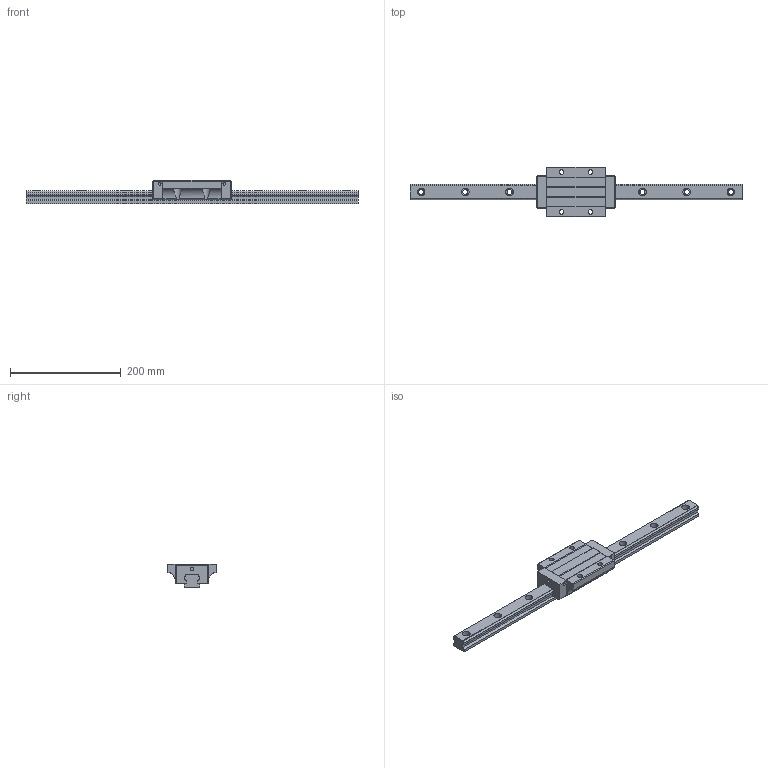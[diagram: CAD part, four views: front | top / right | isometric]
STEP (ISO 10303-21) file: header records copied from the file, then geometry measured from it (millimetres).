
FILE_DESCRIPTION (( 'STEP AP203' ), '1' );
FILE_NAME ('TRH30FE-ZN.STEP', '2024-05-14T07:44:05', ( '' ), ( '' ), 'SwSTEP 2.0', 'SolidWorks 2022', '' );
FILE_SCHEMA (( 'CONFIG_CONTROL_DESIGN' ));
Length unit declared in the file: millimetre
Products named in the file (1): TRH30FE-ZN
Bounding box: 600 x 90 x 42 mm (x, y, z)
Volume: 593624 mm3; surface area: 113423.6 mm2
Topology: 2 solids, 2 shells, 214 faces, 580 edges, 380 vertices
Faces by surface type: cylinder 116, plane 94, sphere 4
Entity records: 7570 total; most frequent: CARTESIAN_POINT 1932, DIRECTION 1184, ORIENTED_EDGE 1152, EDGE_CURVE 576, AXIS2_PLACEMENT_3D 421, VERTEX_POINT 380, LINE 342, VECTOR 342
